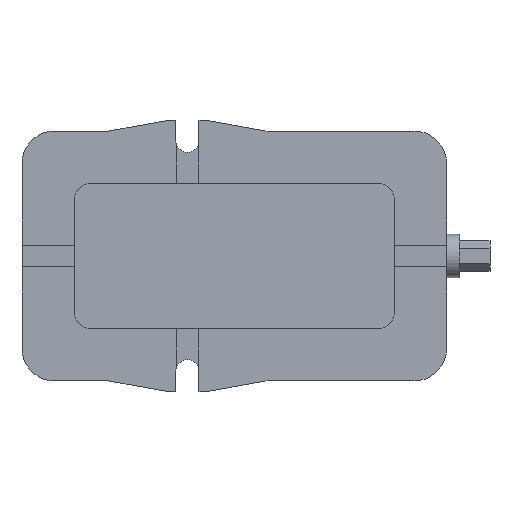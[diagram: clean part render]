
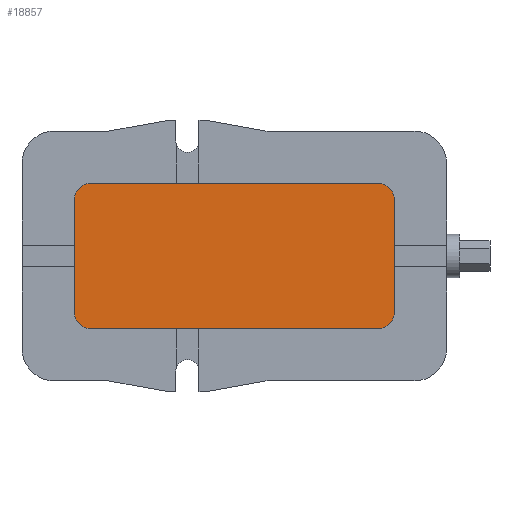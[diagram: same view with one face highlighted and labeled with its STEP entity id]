
A CAD part, front view. The second image highlights one B-rep face of the part: STEP entity #18857.
In plain terms, the highlighted planar face has unit normal (0, -1, 0).
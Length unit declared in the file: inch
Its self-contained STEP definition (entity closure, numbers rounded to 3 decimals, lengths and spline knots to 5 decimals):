
#543 = LINE ( 'NONE', #1364, #546 ) ;
#546 = VECTOR ( 'NONE', #1365, 39.37008 ) ;
#549 = LINE ( 'NONE', #1369, #552 ) ;
#552 = VECTOR ( 'NONE', #1370, 39.37008 ) ;
#555 = LINE ( 'NONE', #1375, #558 ) ;
#558 = VECTOR ( 'NONE', #1376, 39.37008 ) ;
#561 = LINE ( 'NONE', #1381, #564 ) ;
#564 = VECTOR ( 'NONE', #1382, 39.37008 ) ;
#565 = CIRCLE ( 'NONE', #15005, 0.5 ) ;
#567 = CIRCLE ( 'NONE', #15006, 0.5 ) ;
#568 = CIRCLE ( 'NONE', #15007, 0.5 ) ;
#569 = CIRCLE ( 'NONE', #15008, 0.5 ) ;
#868 = FACE_OUTER_BOUND ( 'NONE', #12234, .T. ) ;
#1364 = CARTESIAN_POINT ( 'NONE',  ( 2., 0.25, -4.7 ) ) ;
#1365 = DIRECTION ( 'NONE',  ( 1., 0., 0. ) ) ;
#1369 = CARTESIAN_POINT ( 'NONE',  ( 2., 0.25, -0.5 ) ) ;
#1370 = DIRECTION ( 'NONE',  ( -1., 0., 0. ) ) ;
#1375 = CARTESIAN_POINT ( 'NONE',  ( 10.73, 0.25, -1. ) ) ;
#1376 = DIRECTION ( 'NONE',  ( 0., 0., 1. ) ) ;
#1381 = CARTESIAN_POINT ( 'NONE',  ( 1.5, 0.25, -1. ) ) ;
#1382 = DIRECTION ( 'NONE',  ( 0., 0., -1. ) ) ;
#1385 = CARTESIAN_POINT ( 'NONE',  ( 2., 0.25, -4.2 ) ) ;
#1386 = DIRECTION ( 'NONE',  ( 0., -1., 0. ) ) ;
#1387 = DIRECTION ( 'NONE',  ( 0., 0., -1. ) ) ;
#1388 = CARTESIAN_POINT ( 'NONE',  ( 2., 0.25, -1. ) ) ;
#1389 = DIRECTION ( 'NONE',  ( 0., -1., 0. ) ) ;
#1390 = DIRECTION ( 'NONE',  ( 0., 0., -1. ) ) ;
#1393 = CARTESIAN_POINT ( 'NONE',  ( 10.23, 0.25, -1. ) ) ;
#1394 = DIRECTION ( 'NONE',  ( 0., -1., 0. ) ) ;
#1395 = DIRECTION ( 'NONE',  ( 0., 0., -1. ) ) ;
#1396 = CARTESIAN_POINT ( 'NONE',  ( 10.23, 0.25, -4.2 ) ) ;
#1397 = DIRECTION ( 'NONE',  ( 0., -1., 0. ) ) ;
#1398 = DIRECTION ( 'NONE',  ( 0., 0., -1. ) ) ;
#2950 = CARTESIAN_POINT ( 'NONE',  ( 2., 0.25, -4.2 ) ) ;
#2952 = PLANE ( 'NONE',  #4142 ) ;
#2954 = DIRECTION ( 'NONE',  ( 0., -1., 0. ) ) ;
#2955 = DIRECTION ( 'NONE',  ( 0., 0., -1. ) ) ;
#4142 = AXIS2_PLACEMENT_3D ( 'NONE', #2950, #2954, #2955 ) ;
#8361 = CARTESIAN_POINT ( 'NONE',  ( 10.23, 0.25, -0.5 ) ) ;
#8362 = CARTESIAN_POINT ( 'NONE',  ( 10.23, 0.25, -4.7 ) ) ;
#8365 = CARTESIAN_POINT ( 'NONE',  ( 1.5, 0.25, -4.2 ) ) ;
#8375 = CARTESIAN_POINT ( 'NONE',  ( 10.73, 0.25, -4.2 ) ) ;
#8377 = CARTESIAN_POINT ( 'NONE',  ( 1.5, 0.25, -1. ) ) ;
#8378 = CARTESIAN_POINT ( 'NONE',  ( 2., 0.25, -0.5 ) ) ;
#8379 = CARTESIAN_POINT ( 'NONE',  ( 10.73, 0.25, -1. ) ) ;
#8380 = CARTESIAN_POINT ( 'NONE',  ( 2., 0.25, -4.7 ) ) ;
#11516 = ORIENTED_EDGE ( 'NONE', *, *, #16276, .T. ) ;
#11517 = ORIENTED_EDGE ( 'NONE', *, *, #16265, .T. ) ;
#11518 = ORIENTED_EDGE ( 'NONE', *, *, #16279, .T. ) ;
#11519 = ORIENTED_EDGE ( 'NONE', *, *, #16271, .T. ) ;
#11520 = ORIENTED_EDGE ( 'NONE', *, *, #16278, .T. ) ;
#11521 = ORIENTED_EDGE ( 'NONE', *, *, #16268, .T. ) ;
#11522 = ORIENTED_EDGE ( 'NONE', *, *, #16277, .T. ) ;
#11523 = ORIENTED_EDGE ( 'NONE', *, *, #16274, .T. ) ;
#11768 = VERTEX_POINT ( 'NONE', #8361 ) ;
#11769 = VERTEX_POINT ( 'NONE', #8362 ) ;
#11772 = VERTEX_POINT ( 'NONE', #8365 ) ;
#11782 = VERTEX_POINT ( 'NONE', #8375 ) ;
#11784 = VERTEX_POINT ( 'NONE', #8377 ) ;
#11785 = VERTEX_POINT ( 'NONE', #8378 ) ;
#11786 = VERTEX_POINT ( 'NONE', #8379 ) ;
#11787 = VERTEX_POINT ( 'NONE', #8380 ) ;
#12234 = EDGE_LOOP ( 'NONE', ( #11516, #11517, #11518, #11519, #11520, #11521, #11522, #11523 ) ) ;
#15005 = AXIS2_PLACEMENT_3D ( 'NONE', #1385, #1386, #1387 ) ;
#15006 = AXIS2_PLACEMENT_3D ( 'NONE', #1388, #1389, #1390 ) ;
#15007 = AXIS2_PLACEMENT_3D ( 'NONE', #1393, #1394, #1395 ) ;
#15008 = AXIS2_PLACEMENT_3D ( 'NONE', #1396, #1397, #1398 ) ;
#16265 = EDGE_CURVE ( 'NONE', #11787, #11769, #543, .T. ) ;
#16268 = EDGE_CURVE ( 'NONE', #11768, #11785, #549, .T. ) ;
#16271 = EDGE_CURVE ( 'NONE', #11782, #11786, #555, .T. ) ;
#16274 = EDGE_CURVE ( 'NONE', #11784, #11772, #561, .T. ) ;
#16276 = EDGE_CURVE ( 'NONE', #11772, #11787, #565, .T. ) ;
#16277 = EDGE_CURVE ( 'NONE', #11785, #11784, #567, .T. ) ;
#16278 = EDGE_CURVE ( 'NONE', #11786, #11768, #568, .T. ) ;
#16279 = EDGE_CURVE ( 'NONE', #11769, #11782, #569, .T. ) ;
#18857 = ADVANCED_FACE ( 'NONE', ( #868 ), #2952, .T. ) ;
